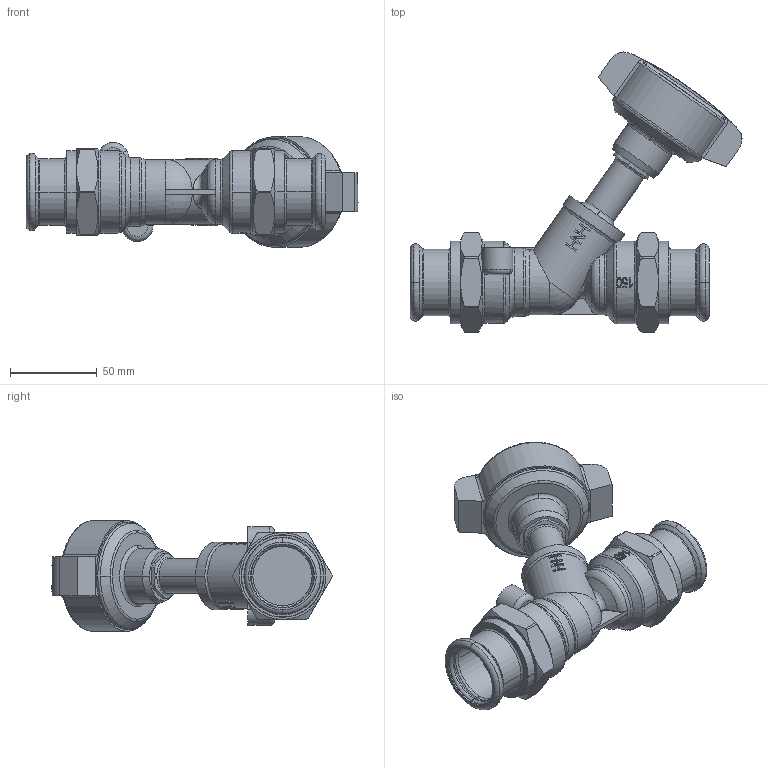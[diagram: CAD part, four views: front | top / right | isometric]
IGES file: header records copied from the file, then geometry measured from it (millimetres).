
Global section: file name: No Iges File Name specified; native system: AutoDesk Inventor R12.0; preprocessor: AutoDesk Inventor Iges Exporter R12.0; date: 20110824.161336; units: millimetre
Bounding box: 191.32 x 161.37 x 63.85 mm (x, y, z)
Volume: 351962.7 mm3; surface area: 67507.8 mm2
Topology: 3 solids, 5 shells, 796 faces, 2074 edges, 1335 vertices
Faces by surface type: plane 318, bspline 265, cylinder 90, torus 43, revolution 41, cone 37, sphere 2
